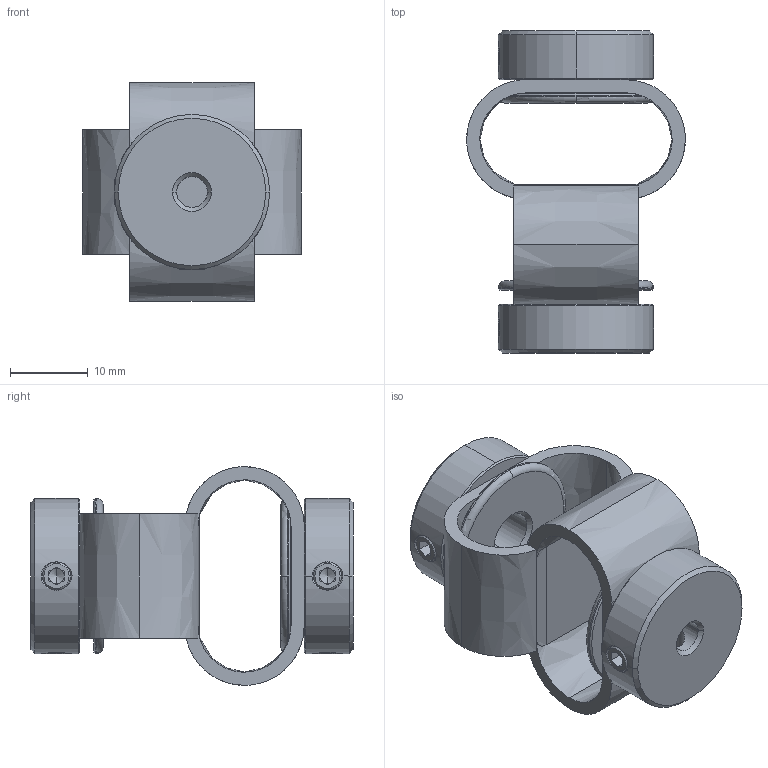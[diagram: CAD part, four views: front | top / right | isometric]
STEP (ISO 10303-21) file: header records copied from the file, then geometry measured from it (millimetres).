
FILE_DESCRIPTION (( 'STEP AP203' ), '1' );
FILE_NAME ('LS-D-D27L40-4-6.STEP', '2021-10-28T06:04:45', ( '' ), ( '' ), 'SwSTEP 2.0', 'SolidWorks 2018', '' );
FILE_SCHEMA (( 'CONFIG_CONTROL_DESIGN' ));
Length unit declared in the file: millimetre
Products named in the file (1): LS-D-D27L40-4-6
Bounding box: 28.2 x 41.54 x 28.2 mm (x, y, z)
Volume: 7437.7 mm3; surface area: 6694.5 mm2
Topology: 1 solids, 1 shells, 190 faces, 493 edges, 308 vertices
Faces by surface type: plane 86, cone 54, cylinder 30, bspline 16, torus 4
Entity records: 7784 total; most frequent: CARTESIAN_POINT 3215, ORIENTED_EDGE 970, DIRECTION 886, EDGE_CURVE 485, AXIS2_PLACEMENT_3D 345, VERTEX_POINT 308, EDGE_LOOP 217, LINE 196
